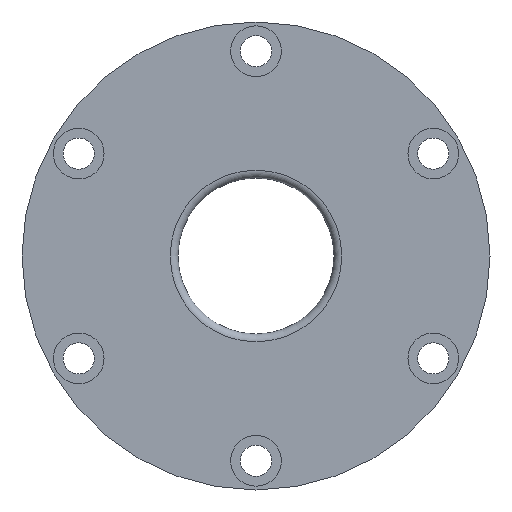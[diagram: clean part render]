
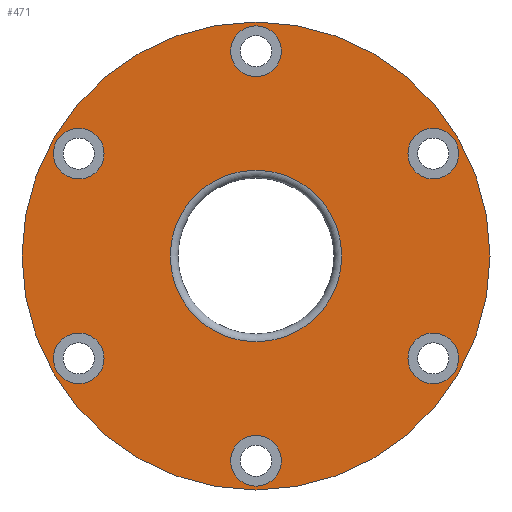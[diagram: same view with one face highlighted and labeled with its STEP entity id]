
A CAD part, front view. The second image highlights one B-rep face of the part: STEP entity #471.
In plain terms, the highlighted planar face has unit normal (0, -1, 0).
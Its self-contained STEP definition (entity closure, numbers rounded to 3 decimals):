
#82=FACE_BOUND('',#161,.T.);
#83=FACE_BOUND('',#162,.T.);
#84=FACE_BOUND('',#163,.T.);
#85=FACE_BOUND('',#164,.T.);
#86=FACE_BOUND('',#165,.T.);
#87=FACE_BOUND('',#166,.T.);
#88=FACE_BOUND('',#167,.T.);
#115=FACE_OUTER_BOUND('',#160,.T.);
#160=EDGE_LOOP('',(#411));
#161=EDGE_LOOP('',(#412));
#162=EDGE_LOOP('',(#413));
#163=EDGE_LOOP('',(#414));
#164=EDGE_LOOP('',(#415));
#165=EDGE_LOOP('',(#416));
#166=EDGE_LOOP('',(#417));
#167=EDGE_LOOP('',(#418));
#173=CIRCLE('',#499,6.5);
#177=CIRCLE('',#506,6.5);
#181=CIRCLE('',#513,6.5);
#185=CIRCLE('',#520,6.5);
#189=CIRCLE('',#527,6.5);
#193=CIRCLE('',#534,6.5);
#207=CIRCLE('',#557,60.);
#208=CIRCLE('',#559,22.);
#217=VERTEX_POINT('',#742);
#221=VERTEX_POINT('',#755);
#225=VERTEX_POINT('',#768);
#229=VERTEX_POINT('',#781);
#233=VERTEX_POINT('',#794);
#237=VERTEX_POINT('',#807);
#249=VERTEX_POINT('',#846);
#250=VERTEX_POINT('',#850);
#257=EDGE_CURVE('',#217,#217,#173,.T.);
#263=EDGE_CURVE('',#221,#221,#177,.T.);
#269=EDGE_CURVE('',#225,#225,#181,.T.);
#275=EDGE_CURVE('',#229,#229,#185,.T.);
#281=EDGE_CURVE('',#233,#233,#189,.T.);
#287=EDGE_CURVE('',#237,#237,#193,.T.);
#305=EDGE_CURVE('',#249,#249,#207,.T.);
#307=EDGE_CURVE('',#250,#250,#208,.T.);
#411=ORIENTED_EDGE('',*,*,#305,.T.);
#412=ORIENTED_EDGE('',*,*,#257,.T.);
#413=ORIENTED_EDGE('',*,*,#263,.T.);
#414=ORIENTED_EDGE('',*,*,#269,.T.);
#415=ORIENTED_EDGE('',*,*,#275,.T.);
#416=ORIENTED_EDGE('',*,*,#281,.T.);
#417=ORIENTED_EDGE('',*,*,#287,.T.);
#418=ORIENTED_EDGE('',*,*,#307,.F.);
#444=PLANE('',#558);
#471=ADVANCED_FACE('',(#115,#82,#83,#84,#85,#86,#87,#88),#444,.T.);
#499=AXIS2_PLACEMENT_3D('',#743,#579,#580);
#506=AXIS2_PLACEMENT_3D('',#756,#595,#596);
#513=AXIS2_PLACEMENT_3D('',#769,#611,#612);
#520=AXIS2_PLACEMENT_3D('',#782,#627,#628);
#527=AXIS2_PLACEMENT_3D('',#795,#643,#644);
#534=AXIS2_PLACEMENT_3D('',#808,#659,#660);
#557=AXIS2_PLACEMENT_3D('',#847,#709,#710);
#558=AXIS2_PLACEMENT_3D('',#849,#712,#713);
#559=AXIS2_PLACEMENT_3D('',#851,#714,#715);
#579=DIRECTION('center_axis',(0.,1.,0.));
#580=DIRECTION('ref_axis',(0.5,0.,-0.866));
#595=DIRECTION('center_axis',(0.,1.,0.));
#596=DIRECTION('ref_axis',(-0.5,0.,-0.866));
#611=DIRECTION('center_axis',(0.,1.,0.));
#612=DIRECTION('ref_axis',(-1.,0.,0.));
#627=DIRECTION('center_axis',(0.,1.,0.));
#628=DIRECTION('ref_axis',(-0.5,0.,0.866));
#643=DIRECTION('center_axis',(0.,1.,0.));
#644=DIRECTION('ref_axis',(0.5,0.,0.866));
#659=DIRECTION('center_axis',(0.,1.,0.));
#660=DIRECTION('ref_axis',(1.,0.,0.));
#709=DIRECTION('center_axis',(0.,-1.,0.));
#710=DIRECTION('ref_axis',(1.,0.,0.));
#712=DIRECTION('center_axis',(0.,-1.,0.));
#713=DIRECTION('ref_axis',(0.,0.,-1.));
#714=DIRECTION('center_axis',(0.,-1.,0.));
#715=DIRECTION('ref_axis',(1.,0.,0.));
#742=CARTESIAN_POINT('',(42.216,0.,31.879));
#743=CARTESIAN_POINT('Origin',(45.466,0.,26.25));
#755=CARTESIAN_POINT('',(48.716,0.,-20.621));
#756=CARTESIAN_POINT('Origin',(45.466,0.,-26.25));
#768=CARTESIAN_POINT('',(6.5,0.,-52.5));
#769=CARTESIAN_POINT('Origin',(0.,0.,-52.5));
#781=CARTESIAN_POINT('',(-42.216,0.,-31.879));
#782=CARTESIAN_POINT('Origin',(-45.466,0.,-26.25));
#794=CARTESIAN_POINT('',(-48.716,0.,20.621));
#795=CARTESIAN_POINT('Origin',(-45.466,0.,26.25));
#807=CARTESIAN_POINT('',(-6.5,0.,52.5));
#808=CARTESIAN_POINT('Origin',(0.,0.,52.5));
#846=CARTESIAN_POINT('',(-60.,0.,0.));
#847=CARTESIAN_POINT('Origin',(0.,0.,0.));
#849=CARTESIAN_POINT('Origin',(22.,0.,0.));
#850=CARTESIAN_POINT('',(0.,0.,22.));
#851=CARTESIAN_POINT('Origin',(0.,0.,0.));
